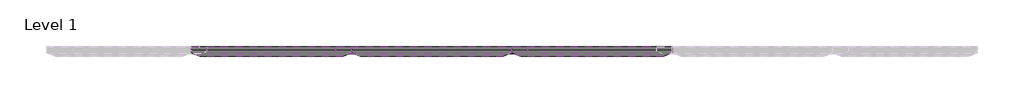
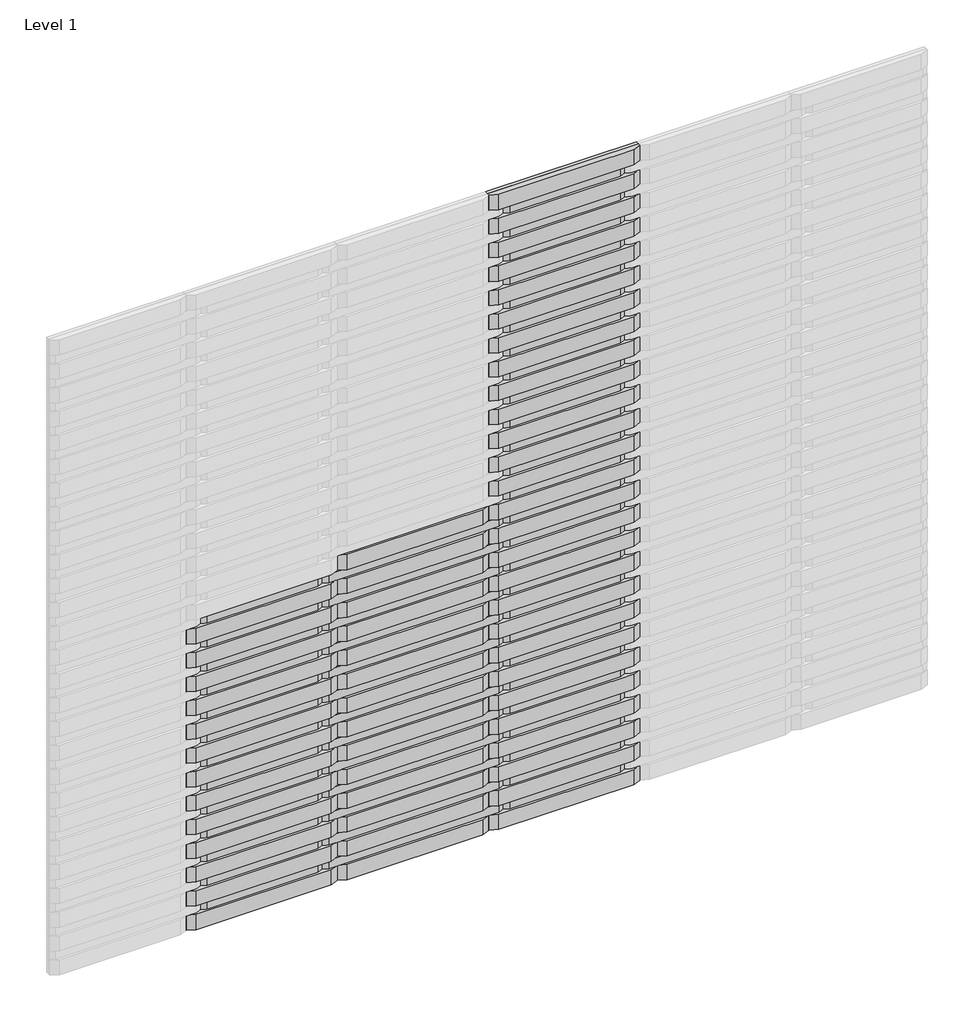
# One storey, part 2 of 3: 106 proxies.
"""IFC4 building model written with IfcOpenShell, lengths in millimetres."""

from ifc_helpers import new_model, si_unit, origin, place, context, project, spatial, transform, mapped, element, save
from components import specialty_equipment_40f1bc00, specialty_equipment_a95d78fa, specialty_equipment_5a5a9d1b

model = new_model("IFC4")

# Units and contexts
model_context = context("Model", 3, world=origin())
ifc_project = project(units=[si_unit("LENGTHUNIT", "METRE", prefix="MILLI")], contexts=[model_context])

# Site, building, storey
site = spatial("IfcSite", under=ifc_project)
building = spatial("IfcBuilding", under=site)
storey = spatial("IfcBuildingStorey", under=building, Name="Level 1", Elevation=0.0)

# Proxies
placement = place(None, origin())
specialty_equipment_shape = specialty_equipment_40f1bc00(model_context)
element("IfcBuildingElementProxy", 1, Name="Spinneybeck_ARO Plank 8 : A - 2’-9” x 3 1/2” x 1 1/4”", ObjectType="Spinneybeck_ARO Plank 8 : A - 2’-9” x 3 1/2” x 1 1/4”", at=placement, inside=storey, context=model_context, shape_type="MappedRepresentation", body=[
    mapped(specialty_equipment_shape, transform((2814.579612, 2593.3070483, 3755.55), x_axis=(1.0, 0.0, 0.0), y_axis=(0.0, 0.0, 1.0), z_axis=(0.0, -1.0, 0.0))),
])
element("IfcBuildingElementProxy", 2, Name="Spinneybeck_ARO Plank 8 : A - 2’-9” x 3 1/2” x 1 1/4”", ObjectType="Spinneybeck_ARO Plank 8 : A - 2’-9” x 3 1/2” x 1 1/4”", at=placement, inside=storey, context=model_context, shape_type="MappedRepresentation", body=[
    mapped(specialty_equipment_shape, transform((2814.579612, 2593.3070483, 3615.85), x_axis=(1.0, 0.0, 0.0), y_axis=(0.0, 0.0, 1.0), z_axis=(0.0, -1.0, 0.0))),
])
element("IfcBuildingElementProxy", 3, Name="Spinneybeck_ARO Plank 8 : A - 2’-9” x 3 1/2” x 1 1/4”", ObjectType="Spinneybeck_ARO Plank 8 : A - 2’-9” x 3 1/2” x 1 1/4”", at=placement, inside=storey, context=model_context, shape_type="MappedRepresentation", body=[
    mapped(specialty_equipment_shape, transform((2814.579612, 2593.3070483, 3476.15), x_axis=(1.0, 0.0, 0.0), y_axis=(0.0, 0.0, 1.0), z_axis=(0.0, -1.0, 0.0))),
])
element("IfcBuildingElementProxy", 4, Name="Spinneybeck_ARO Plank 8 : A - 2’-9” x 3 1/2” x 1 1/4”", ObjectType="Spinneybeck_ARO Plank 8 : A - 2’-9” x 3 1/2” x 1 1/4”", at=placement, inside=storey, context=model_context, shape_type="MappedRepresentation", body=[
    mapped(specialty_equipment_shape, transform((2814.579612, 2593.3070483, 3336.45), x_axis=(1.0, 0.0, 0.0), y_axis=(0.0, 0.0, 1.0), z_axis=(0.0, -1.0, 0.0))),
])
element("IfcBuildingElementProxy", 5, Name="Spinneybeck_ARO Plank 8 : A - 2’-9” x 3 1/2” x 1 1/4”", ObjectType="Spinneybeck_ARO Plank 8 : A - 2’-9” x 3 1/2” x 1 1/4”", at=placement, inside=storey, context=model_context, shape_type="MappedRepresentation", body=[
    mapped(specialty_equipment_shape, transform((2814.579612, 2593.3070483, 3196.75), x_axis=(1.0, 0.0, 0.0), y_axis=(0.0, 0.0, 1.0), z_axis=(0.0, -1.0, 0.0))),
])
element("IfcBuildingElementProxy", 6, Name="Spinneybeck_ARO Plank 8 : A - 2’-9” x 3 1/2” x 1 1/4”", ObjectType="Spinneybeck_ARO Plank 8 : A - 2’-9” x 3 1/2” x 1 1/4”", at=placement, inside=storey, context=model_context, shape_type="MappedRepresentation", body=[
    mapped(specialty_equipment_shape, transform((2814.579612, 2593.3070483, 3057.05), x_axis=(1.0, 0.0, 0.0), y_axis=(0.0, 0.0, 1.0), z_axis=(0.0, -1.0, 0.0))),
])
element("IfcBuildingElementProxy", 7, Name="Spinneybeck_ARO Plank 8 : A - 2’-9” x 3 1/2” x 1 1/4”", ObjectType="Spinneybeck_ARO Plank 8 : A - 2’-9” x 3 1/2” x 1 1/4”", at=placement, inside=storey, context=model_context, shape_type="MappedRepresentation", body=[
    mapped(specialty_equipment_shape, transform((2814.579612, 2593.3070483, 2917.35), x_axis=(1.0, 0.0, 0.0), y_axis=(0.0, 0.0, 1.0), z_axis=(0.0, -1.0, 0.0))),
])
element("IfcBuildingElementProxy", 8, Name="Spinneybeck_ARO Plank 8 : A - 2’-9” x 3 1/2” x 1 1/4”", ObjectType="Spinneybeck_ARO Plank 8 : A - 2’-9” x 3 1/2” x 1 1/4”", at=placement, inside=storey, context=model_context, shape_type="MappedRepresentation", body=[
    mapped(specialty_equipment_shape, transform((2814.579612, 2593.3070483, 2777.65), x_axis=(1.0, 0.0, 0.0), y_axis=(0.0, 0.0, 1.0), z_axis=(0.0, -1.0, 0.0))),
])
element("IfcBuildingElementProxy", 9, Name="Spinneybeck_ARO Plank 8 : A - 2’-9” x 3 1/2” x 1 1/4”", ObjectType="Spinneybeck_ARO Plank 8 : A - 2’-9” x 3 1/2” x 1 1/4”", at=placement, inside=storey, context=model_context, shape_type="MappedRepresentation", body=[
    mapped(specialty_equipment_shape, transform((2814.579612, 2593.3070483, 2637.95), x_axis=(1.0, 0.0, 0.0), y_axis=(0.0, 0.0, 1.0), z_axis=(0.0, -1.0, 0.0))),
])
element("IfcBuildingElementProxy", 10, Name="Spinneybeck_ARO Plank 8 : A - 2’-9” x 3 1/2” x 1 1/4”", ObjectType="Spinneybeck_ARO Plank 8 : A - 2’-9” x 3 1/2” x 1 1/4”", at=placement, inside=storey, context=model_context, shape_type="MappedRepresentation", body=[
    mapped(specialty_equipment_shape, transform((2814.579612, 2593.3070483, 2498.25), x_axis=(1.0, 0.0, 0.0), y_axis=(0.0, 0.0, 1.0), z_axis=(0.0, -1.0, 0.0))),
])
element("IfcBuildingElementProxy", 11, Name="Spinneybeck_ARO Plank 8 : A - 2’-9” x 3 1/2” x 1 1/4”", ObjectType="Spinneybeck_ARO Plank 8 : A - 2’-9” x 3 1/2” x 1 1/4”", at=placement, inside=storey, context=model_context, shape_type="MappedRepresentation", body=[
    mapped(specialty_equipment_shape, transform((2814.579612, 2593.3070483, 2358.55), x_axis=(1.0, 0.0, 0.0), y_axis=(0.0, 0.0, 1.0), z_axis=(0.0, -1.0, 0.0))),
])
element("IfcBuildingElementProxy", 12, Name="Spinneybeck_ARO Plank 8 : A - 2’-9” x 3 1/2” x 1 1/4”", ObjectType="Spinneybeck_ARO Plank 8 : A - 2’-9” x 3 1/2” x 1 1/4”", at=placement, inside=storey, context=model_context, shape_type="MappedRepresentation", body=[
    mapped(specialty_equipment_shape, transform((2814.579612, 2593.3070483, 2218.85), x_axis=(1.0, 0.0, 0.0), y_axis=(0.0, 0.0, 1.0), z_axis=(0.0, -1.0, 0.0))),
])
element("IfcBuildingElementProxy", 13, Name="Spinneybeck_ARO Plank 8 : A - 2’-9” x 3 1/2” x 1 1/4”", ObjectType="Spinneybeck_ARO Plank 8 : A - 2’-9” x 3 1/2” x 1 1/4”", at=placement, inside=storey, context=model_context, shape_type="MappedRepresentation", body=[
    mapped(specialty_equipment_shape, transform((2814.579612, 2593.3070483, 2079.15), x_axis=(1.0, 0.0, 0.0), y_axis=(0.0, 0.0, 1.0), z_axis=(0.0, -1.0, 0.0))),
])
element("IfcBuildingElementProxy", 14, Name="Spinneybeck_ARO Plank 8 : A - 2’-9” x 3 1/2” x 1 1/4”", ObjectType="Spinneybeck_ARO Plank 8 : A - 2’-9” x 3 1/2” x 1 1/4”", at=placement, inside=storey, context=model_context, shape_type="MappedRepresentation", body=[
    mapped(specialty_equipment_shape, transform((1976.379612, 2593.3070483, 1939.45), x_axis=(1.0, 0.0, 0.0), y_axis=(0.0, 0.0, 1.0), z_axis=(0.0, -1.0, 0.0))),
])
element("IfcBuildingElementProxy", 15, Name="Spinneybeck_ARO Plank 8 : A - 2’-9” x 3 1/2” x 1 1/4”", ObjectType="Spinneybeck_ARO Plank 8 : A - 2’-9” x 3 1/2” x 1 1/4”", at=placement, inside=storey, context=model_context, shape_type="MappedRepresentation", body=[
    mapped(specialty_equipment_shape, transform((2814.579612, 2593.3070483, 1939.45), x_axis=(1.0, 0.0, 0.0), y_axis=(0.0, 0.0, 1.0), z_axis=(0.0, -1.0, 0.0))),
])
element("IfcBuildingElementProxy", 16, Name="Spinneybeck_ARO Plank 8 : A - 2’-9” x 3 1/2” x 1 1/4”", ObjectType="Spinneybeck_ARO Plank 8 : A - 2’-9” x 3 1/2” x 1 1/4”", at=placement, inside=storey, context=model_context, shape_type="MappedRepresentation", body=[
    mapped(specialty_equipment_shape, transform((1138.179612, 2593.3070483, 1799.75), x_axis=(1.0, 0.0, 0.0), y_axis=(0.0, 0.0, 1.0), z_axis=(0.0, -1.0, 0.0))),
])
element("IfcBuildingElementProxy", 17, Name="Spinneybeck_ARO Plank 8 : A - 2’-9” x 3 1/2” x 1 1/4”", ObjectType="Spinneybeck_ARO Plank 8 : A - 2’-9” x 3 1/2” x 1 1/4”", at=placement, inside=storey, context=model_context, shape_type="MappedRepresentation", body=[
    mapped(specialty_equipment_shape, transform((1976.379612, 2593.3070483, 1799.75), x_axis=(1.0, 0.0, 0.0), y_axis=(0.0, 0.0, 1.0), z_axis=(0.0, -1.0, 0.0))),
])
element("IfcBuildingElementProxy", 18, Name="Spinneybeck_ARO Plank 8 : A - 2’-9” x 3 1/2” x 1 1/4”", ObjectType="Spinneybeck_ARO Plank 8 : A - 2’-9” x 3 1/2” x 1 1/4”", at=placement, inside=storey, context=model_context, shape_type="MappedRepresentation", body=[
    mapped(specialty_equipment_shape, transform((2814.579612, 2593.3070483, 1799.75), x_axis=(1.0, 0.0, 0.0), y_axis=(0.0, 0.0, 1.0), z_axis=(0.0, -1.0, 0.0))),
])
element("IfcBuildingElementProxy", 19, Name="Spinneybeck_ARO Plank 8 : A - 2’-9” x 3 1/2” x 1 1/4”", ObjectType="Spinneybeck_ARO Plank 8 : A - 2’-9” x 3 1/2” x 1 1/4”", at=placement, inside=storey, context=model_context, shape_type="MappedRepresentation", body=[
    mapped(specialty_equipment_shape, transform((1138.179612, 2593.3070483, 1660.05), x_axis=(1.0, 0.0, 0.0), y_axis=(0.0, 0.0, 1.0), z_axis=(0.0, -1.0, 0.0))),
])
element("IfcBuildingElementProxy", 20, Name="Spinneybeck_ARO Plank 8 : A - 2’-9” x 3 1/2” x 1 1/4”", ObjectType="Spinneybeck_ARO Plank 8 : A - 2’-9” x 3 1/2” x 1 1/4”", at=placement, inside=storey, context=model_context, shape_type="MappedRepresentation", body=[
    mapped(specialty_equipment_shape, transform((1976.379612, 2593.3070483, 1660.05), x_axis=(1.0, 0.0, 0.0), y_axis=(0.0, 0.0, 1.0), z_axis=(0.0, -1.0, 0.0))),
])
element("IfcBuildingElementProxy", 21, Name="Spinneybeck_ARO Plank 8 : A - 2’-9” x 3 1/2” x 1 1/4”", ObjectType="Spinneybeck_ARO Plank 8 : A - 2’-9” x 3 1/2” x 1 1/4”", at=placement, inside=storey, context=model_context, shape_type="MappedRepresentation", body=[
    mapped(specialty_equipment_shape, transform((2814.579612, 2593.3070483, 1660.05), x_axis=(1.0, 0.0, 0.0), y_axis=(0.0, 0.0, 1.0), z_axis=(0.0, -1.0, 0.0))),
])
element("IfcBuildingElementProxy", 22, Name="Spinneybeck_ARO Plank 8 : A - 2’-9” x 3 1/2” x 1 1/4”", ObjectType="Spinneybeck_ARO Plank 8 : A - 2’-9” x 3 1/2” x 1 1/4”", at=placement, inside=storey, context=model_context, shape_type="MappedRepresentation", body=[
    mapped(specialty_equipment_shape, transform((1138.179612, 2593.3070483, 1520.35), x_axis=(1.0, 0.0, 0.0), y_axis=(0.0, 0.0, 1.0), z_axis=(0.0, -1.0, 0.0))),
])
element("IfcBuildingElementProxy", 23, Name="Spinneybeck_ARO Plank 8 : A - 2’-9” x 3 1/2” x 1 1/4”", ObjectType="Spinneybeck_ARO Plank 8 : A - 2’-9” x 3 1/2” x 1 1/4”", at=placement, inside=storey, context=model_context, shape_type="MappedRepresentation", body=[
    mapped(specialty_equipment_shape, transform((1976.379612, 2593.3070483, 1520.35), x_axis=(1.0, 0.0, 0.0), y_axis=(0.0, 0.0, 1.0), z_axis=(0.0, -1.0, 0.0))),
])
element("IfcBuildingElementProxy", 24, Name="Spinneybeck_ARO Plank 8 : A - 2’-9” x 3 1/2” x 1 1/4”", ObjectType="Spinneybeck_ARO Plank 8 : A - 2’-9” x 3 1/2” x 1 1/4”", at=placement, inside=storey, context=model_context, shape_type="MappedRepresentation", body=[
    mapped(specialty_equipment_shape, transform((2814.579612, 2593.3070483, 1520.35), x_axis=(1.0, 0.0, 0.0), y_axis=(0.0, 0.0, 1.0), z_axis=(0.0, -1.0, 0.0))),
])
element("IfcBuildingElementProxy", 25, Name="Spinneybeck_ARO Plank 8 : A - 2’-9” x 3 1/2” x 1 1/4”", ObjectType="Spinneybeck_ARO Plank 8 : A - 2’-9” x 3 1/2” x 1 1/4”", at=placement, inside=storey, context=model_context, shape_type="MappedRepresentation", body=[
    mapped(specialty_equipment_shape, transform((1138.179612, 2593.3070483, 1380.65), x_axis=(1.0, 0.0, 0.0), y_axis=(0.0, 0.0, 1.0), z_axis=(0.0, -1.0, 0.0))),
])
element("IfcBuildingElementProxy", 26, Name="Spinneybeck_ARO Plank 8 : A - 2’-9” x 3 1/2” x 1 1/4”", ObjectType="Spinneybeck_ARO Plank 8 : A - 2’-9” x 3 1/2” x 1 1/4”", at=placement, inside=storey, context=model_context, shape_type="MappedRepresentation", body=[
    mapped(specialty_equipment_shape, transform((1976.379612, 2593.3070483, 1380.65), x_axis=(1.0, 0.0, 0.0), y_axis=(0.0, 0.0, 1.0), z_axis=(0.0, -1.0, 0.0))),
])
element("IfcBuildingElementProxy", 27, Name="Spinneybeck_ARO Plank 8 : A - 2’-9” x 3 1/2” x 1 1/4”", ObjectType="Spinneybeck_ARO Plank 8 : A - 2’-9” x 3 1/2” x 1 1/4”", at=placement, inside=storey, context=model_context, shape_type="MappedRepresentation", body=[
    mapped(specialty_equipment_shape, transform((2814.579612, 2593.3070483, 1380.65), x_axis=(1.0, 0.0, 0.0), y_axis=(0.0, 0.0, 1.0), z_axis=(0.0, -1.0, 0.0))),
])
element("IfcBuildingElementProxy", 28, Name="Spinneybeck_ARO Plank 8 : A - 2’-9” x 3 1/2” x 1 1/4”", ObjectType="Spinneybeck_ARO Plank 8 : A - 2’-9” x 3 1/2” x 1 1/4”", at=placement, inside=storey, context=model_context, shape_type="MappedRepresentation", body=[
    mapped(specialty_equipment_shape, transform((1138.179612, 2593.3070483, 1240.95), x_axis=(1.0, 0.0, 0.0), y_axis=(0.0, 0.0, 1.0), z_axis=(0.0, -1.0, 0.0))),
])
element("IfcBuildingElementProxy", 29, Name="Spinneybeck_ARO Plank 8 : A - 2’-9” x 3 1/2” x 1 1/4”", ObjectType="Spinneybeck_ARO Plank 8 : A - 2’-9” x 3 1/2” x 1 1/4”", at=placement, inside=storey, context=model_context, shape_type="MappedRepresentation", body=[
    mapped(specialty_equipment_shape, transform((1976.379612, 2593.3070483, 1240.95), x_axis=(1.0, 0.0, 0.0), y_axis=(0.0, 0.0, 1.0), z_axis=(0.0, -1.0, 0.0))),
])
element("IfcBuildingElementProxy", 30, Name="Spinneybeck_ARO Plank 8 : A - 2’-9” x 3 1/2” x 1 1/4”", ObjectType="Spinneybeck_ARO Plank 8 : A - 2’-9” x 3 1/2” x 1 1/4”", at=placement, inside=storey, context=model_context, shape_type="MappedRepresentation", body=[
    mapped(specialty_equipment_shape, transform((2814.579612, 2593.3070483, 1240.95), x_axis=(1.0, 0.0, 0.0), y_axis=(0.0, 0.0, 1.0), z_axis=(0.0, -1.0, 0.0))),
])
element("IfcBuildingElementProxy", 31, Name="Spinneybeck_ARO Plank 8 : A - 2’-9” x 3 1/2” x 1 1/4”", ObjectType="Spinneybeck_ARO Plank 8 : A - 2’-9” x 3 1/2” x 1 1/4”", at=placement, inside=storey, context=model_context, shape_type="MappedRepresentation", body=[
    mapped(specialty_equipment_shape, transform((1138.179612, 2593.3070483, 1101.25), x_axis=(1.0, 0.0, 0.0), y_axis=(0.0, 0.0, 1.0), z_axis=(0.0, -1.0, 0.0))),
])
element("IfcBuildingElementProxy", 32, Name="Spinneybeck_ARO Plank 8 : A - 2’-9” x 3 1/2” x 1 1/4”", ObjectType="Spinneybeck_ARO Plank 8 : A - 2’-9” x 3 1/2” x 1 1/4”", at=placement, inside=storey, context=model_context, shape_type="MappedRepresentation", body=[
    mapped(specialty_equipment_shape, transform((1976.379612, 2593.3070483, 1101.25), x_axis=(1.0, 0.0, 0.0), y_axis=(0.0, 0.0, 1.0), z_axis=(0.0, -1.0, 0.0))),
])
element("IfcBuildingElementProxy", 33, Name="Spinneybeck_ARO Plank 8 : A - 2’-9” x 3 1/2” x 1 1/4”", ObjectType="Spinneybeck_ARO Plank 8 : A - 2’-9” x 3 1/2” x 1 1/4”", at=placement, inside=storey, context=model_context, shape_type="MappedRepresentation", body=[
    mapped(specialty_equipment_shape, transform((2814.579612, 2593.3070483, 1101.25), x_axis=(1.0, 0.0, 0.0), y_axis=(0.0, 0.0, 1.0), z_axis=(0.0, -1.0, 0.0))),
])
element("IfcBuildingElementProxy", 34, Name="Spinneybeck_ARO Plank 8 : A - 2’-9” x 3 1/2” x 1 1/4”", ObjectType="Spinneybeck_ARO Plank 8 : A - 2’-9” x 3 1/2” x 1 1/4”", at=placement, inside=storey, context=model_context, shape_type="MappedRepresentation", body=[
    mapped(specialty_equipment_shape, transform((1138.179612, 2593.3070483, 961.55), x_axis=(1.0, 0.0, 0.0), y_axis=(0.0, 0.0, 1.0), z_axis=(0.0, -1.0, 0.0))),
])
element("IfcBuildingElementProxy", 35, Name="Spinneybeck_ARO Plank 8 : A - 2’-9” x 3 1/2” x 1 1/4”", ObjectType="Spinneybeck_ARO Plank 8 : A - 2’-9” x 3 1/2” x 1 1/4”", at=placement, inside=storey, context=model_context, shape_type="MappedRepresentation", body=[
    mapped(specialty_equipment_shape, transform((1976.379612, 2593.3070483, 961.55), x_axis=(1.0, 0.0, 0.0), y_axis=(0.0, 0.0, 1.0), z_axis=(0.0, -1.0, 0.0))),
])
element("IfcBuildingElementProxy", 36, Name="Spinneybeck_ARO Plank 8 : A - 2’-9” x 3 1/2” x 1 1/4”", ObjectType="Spinneybeck_ARO Plank 8 : A - 2’-9” x 3 1/2” x 1 1/4”", at=placement, inside=storey, context=model_context, shape_type="MappedRepresentation", body=[
    mapped(specialty_equipment_shape, transform((2814.579612, 2593.3070483, 961.55), x_axis=(1.0, 0.0, 0.0), y_axis=(0.0, 0.0, 1.0), z_axis=(0.0, -1.0, 0.0))),
])
element("IfcBuildingElementProxy", 37, Name="Spinneybeck_ARO Plank 8 : A - 2’-9” x 3 1/2” x 1 1/4”", ObjectType="Spinneybeck_ARO Plank 8 : A - 2’-9” x 3 1/2” x 1 1/4”", at=placement, inside=storey, context=model_context, shape_type="MappedRepresentation", body=[
    mapped(specialty_equipment_shape, transform((1138.179612, 2593.3070483, 821.85), x_axis=(1.0, 0.0, 0.0), y_axis=(0.0, 0.0, 1.0), z_axis=(0.0, -1.0, 0.0))),
])
element("IfcBuildingElementProxy", 38, Name="Spinneybeck_ARO Plank 8 : A - 2’-9” x 3 1/2” x 1 1/4”", ObjectType="Spinneybeck_ARO Plank 8 : A - 2’-9” x 3 1/2” x 1 1/4”", at=placement, inside=storey, context=model_context, shape_type="MappedRepresentation", body=[
    mapped(specialty_equipment_shape, transform((1976.379612, 2593.3070483, 821.85), x_axis=(1.0, 0.0, 0.0), y_axis=(0.0, 0.0, 1.0), z_axis=(0.0, -1.0, 0.0))),
])
element("IfcBuildingElementProxy", 39, Name="Spinneybeck_ARO Plank 8 : A - 2’-9” x 3 1/2” x 1 1/4”", ObjectType="Spinneybeck_ARO Plank 8 : A - 2’-9” x 3 1/2” x 1 1/4”", at=placement, inside=storey, context=model_context, shape_type="MappedRepresentation", body=[
    mapped(specialty_equipment_shape, transform((2814.579612, 2593.3070483, 821.85), x_axis=(1.0, 0.0, 0.0), y_axis=(0.0, 0.0, 1.0), z_axis=(0.0, -1.0, 0.0))),
])
element("IfcBuildingElementProxy", 40, Name="Spinneybeck_ARO Plank 8 : A - 2’-9” x 3 1/2” x 1 1/4”", ObjectType="Spinneybeck_ARO Plank 8 : A - 2’-9” x 3 1/2” x 1 1/4”", at=placement, inside=storey, context=model_context, shape_type="MappedRepresentation", body=[
    mapped(specialty_equipment_shape, transform((1138.179612, 2593.3070483, 682.15), x_axis=(1.0, 0.0, 0.0), y_axis=(0.0, 0.0, 1.0), z_axis=(0.0, -1.0, 0.0))),
])
element("IfcBuildingElementProxy", 41, Name="Spinneybeck_ARO Plank 8 : A - 2’-9” x 3 1/2” x 1 1/4”", ObjectType="Spinneybeck_ARO Plank 8 : A - 2’-9” x 3 1/2” x 1 1/4”", at=placement, inside=storey, context=model_context, shape_type="MappedRepresentation", body=[
    mapped(specialty_equipment_shape, transform((1976.379612, 2593.3070483, 682.15), x_axis=(1.0, 0.0, 0.0), y_axis=(0.0, 0.0, 1.0), z_axis=(0.0, -1.0, 0.0))),
])
element("IfcBuildingElementProxy", 42, Name="Spinneybeck_ARO Plank 8 : A - 2’-9” x 3 1/2” x 1 1/4”", ObjectType="Spinneybeck_ARO Plank 8 : A - 2’-9” x 3 1/2” x 1 1/4”", at=placement, inside=storey, context=model_context, shape_type="MappedRepresentation", body=[
    mapped(specialty_equipment_shape, transform((2814.579612, 2593.3070483, 682.15), x_axis=(1.0, 0.0, 0.0), y_axis=(0.0, 0.0, 1.0), z_axis=(0.0, -1.0, 0.0))),
])
element("IfcBuildingElementProxy", 43, Name="Spinneybeck_ARO Plank 8 : A - 2’-9” x 3 1/2” x 1 1/4”", ObjectType="Spinneybeck_ARO Plank 8 : A - 2’-9” x 3 1/2” x 1 1/4”", at=placement, inside=storey, context=model_context, shape_type="MappedRepresentation", body=[
    mapped(specialty_equipment_shape, transform((1138.179612, 2593.3070483, 542.45), x_axis=(1.0, 0.0, 0.0), y_axis=(0.0, 0.0, 1.0), z_axis=(0.0, -1.0, 0.0))),
])
element("IfcBuildingElementProxy", 44, Name="Spinneybeck_ARO Plank 8 : A - 2’-9” x 3 1/2” x 1 1/4”", ObjectType="Spinneybeck_ARO Plank 8 : A - 2’-9” x 3 1/2” x 1 1/4”", at=placement, inside=storey, context=model_context, shape_type="MappedRepresentation", body=[
    mapped(specialty_equipment_shape, transform((1976.379612, 2593.3070483, 542.45), x_axis=(1.0, 0.0, 0.0), y_axis=(0.0, 0.0, 1.0), z_axis=(0.0, -1.0, 0.0))),
])
element("IfcBuildingElementProxy", 45, Name="Spinneybeck_ARO Plank 8 : A - 2’-9” x 3 1/2” x 1 1/4”", ObjectType="Spinneybeck_ARO Plank 8 : A - 2’-9” x 3 1/2” x 1 1/4”", at=placement, inside=storey, context=model_context, shape_type="MappedRepresentation", body=[
    mapped(specialty_equipment_shape, transform((2814.579612, 2593.3070483, 542.45), x_axis=(1.0, 0.0, 0.0), y_axis=(0.0, 0.0, 1.0), z_axis=(0.0, -1.0, 0.0))),
])
element("IfcBuildingElementProxy", 46, Name="Spinneybeck_ARO Plank 8 : A - 2’-9” x 3 1/2” x 1 1/4”", ObjectType="Spinneybeck_ARO Plank 8 : A - 2’-9” x 3 1/2” x 1 1/4”", at=placement, inside=storey, context=model_context, shape_type="MappedRepresentation", body=[
    mapped(specialty_equipment_shape, transform((1138.179612, 2593.3070483, 402.75), x_axis=(1.0, 0.0, 0.0), y_axis=(0.0, 0.0, 1.0), z_axis=(0.0, -1.0, 0.0))),
])
element("IfcBuildingElementProxy", 47, Name="Spinneybeck_ARO Plank 8 : A - 2’-9” x 3 1/2” x 1 1/4”", ObjectType="Spinneybeck_ARO Plank 8 : A - 2’-9” x 3 1/2” x 1 1/4”", at=placement, inside=storey, context=model_context, shape_type="MappedRepresentation", body=[
    mapped(specialty_equipment_shape, transform((1976.379612, 2593.3070483, 402.75), x_axis=(1.0, 0.0, 0.0), y_axis=(0.0, 0.0, 1.0), z_axis=(0.0, -1.0, 0.0))),
])
element("IfcBuildingElementProxy", 48, Name="Spinneybeck_ARO Plank 8 : A - 2’-9” x 3 1/2” x 1 1/4”", ObjectType="Spinneybeck_ARO Plank 8 : A - 2’-9” x 3 1/2” x 1 1/4”", at=placement, inside=storey, context=model_context, shape_type="MappedRepresentation", body=[
    mapped(specialty_equipment_shape, transform((2814.579612, 2593.3070483, 402.75), x_axis=(1.0, 0.0, 0.0), y_axis=(0.0, 0.0, 1.0), z_axis=(0.0, -1.0, 0.0))),
])
element("IfcBuildingElementProxy", 49, Name="Spinneybeck_ARO Plank 8 : A - 2’-9” x 3 1/2” x 1 1/4”", ObjectType="Spinneybeck_ARO Plank 8 : A - 2’-9” x 3 1/2” x 1 1/4”", at=placement, inside=storey, context=model_context, shape_type="MappedRepresentation", body=[
    mapped(specialty_equipment_shape, transform((1138.179612, 2593.3070483, 263.05), x_axis=(1.0, 0.0, 0.0), y_axis=(0.0, 0.0, 1.0), z_axis=(0.0, -1.0, 0.0))),
])
element("IfcBuildingElementProxy", 50, Name="Spinneybeck_ARO Plank 8 : A - 2’-9” x 3 1/2” x 1 1/4”", ObjectType="Spinneybeck_ARO Plank 8 : A - 2’-9” x 3 1/2” x 1 1/4”", at=placement, inside=storey, context=model_context, shape_type="MappedRepresentation", body=[
    mapped(specialty_equipment_shape, transform((1976.379612, 2593.3070483, 263.05), x_axis=(1.0, 0.0, 0.0), y_axis=(0.0, 0.0, 1.0), z_axis=(0.0, -1.0, 0.0))),
])
element("IfcBuildingElementProxy", 51, Name="Spinneybeck_ARO Plank 8 : A - 2’-9” x 3 1/2” x 1 1/4”", ObjectType="Spinneybeck_ARO Plank 8 : A - 2’-9” x 3 1/2” x 1 1/4”", at=placement, inside=storey, context=model_context, shape_type="MappedRepresentation", body=[
    mapped(specialty_equipment_shape, transform((2814.579612, 2593.3070483, 263.05), x_axis=(1.0, 0.0, 0.0), y_axis=(0.0, 0.0, 1.0), z_axis=(0.0, -1.0, 0.0))),
])
element("IfcBuildingElementProxy", 52, Name="Spinneybeck_ARO Plank 8 : A - 2’-9” x 3 1/2” x 1 1/4”", ObjectType="Spinneybeck_ARO Plank 8 : A - 2’-9” x 3 1/2” x 1 1/4”", at=placement, inside=storey, context=model_context, shape_type="MappedRepresentation", body=[
    mapped(specialty_equipment_shape, transform((1138.179612, 2593.3070483, 123.35), x_axis=(1.0, 0.0, 0.0), y_axis=(0.0, 0.0, 1.0), z_axis=(0.0, -1.0, 0.0))),
])
element("IfcBuildingElementProxy", 53, Name="Spinneybeck_ARO Plank 8 : A - 2’-9” x 3 1/2” x 1 1/4”", ObjectType="Spinneybeck_ARO Plank 8 : A - 2’-9” x 3 1/2” x 1 1/4”", at=placement, inside=storey, context=model_context, shape_type="MappedRepresentation", body=[
    mapped(specialty_equipment_shape, transform((1976.379612, 2593.3070483, 123.35), x_axis=(1.0, 0.0, 0.0), y_axis=(0.0, 0.0, 1.0), z_axis=(0.0, -1.0, 0.0))),
])
element("IfcBuildingElementProxy", 54, Name="Spinneybeck_ARO Plank 8 : A - 2’-9” x 3 1/2” x 1 1/4”", ObjectType="Spinneybeck_ARO Plank 8 : A - 2’-9” x 3 1/2” x 1 1/4”", at=placement, inside=storey, context=model_context, shape_type="MappedRepresentation", body=[
    mapped(specialty_equipment_shape, transform((2814.579612, 2593.3070483, 123.35), x_axis=(1.0, 0.0, 0.0), y_axis=(0.0, 0.0, 1.0), z_axis=(0.0, -1.0, 0.0))),
])
specialty_equipment_2_shape = specialty_equipment_a95d78fa(model_context)
element("IfcBuildingElementProxy", 55, Name="Spinneybeck_ARO Plank 8 : C - 3’-3 1/2” x 2” x 3/4”", ObjectType="Spinneybeck_ARO Plank 8 : C - 3’-3 1/2” x 2” x 3/4”", at=placement, inside=storey, context=model_context, shape_type="MappedRepresentation", body=[
    mapped(specialty_equipment_2_shape, transform((1976.379612, 2593.3070483, 1869.6), x_axis=(1.0, 0.0, 0.0), y_axis=(0.0, 0.0, 1.0), z_axis=(0.0, -1.0, 0.0))),
])
element("IfcBuildingElementProxy", 56, Name="Spinneybeck_ARO Plank 8 : C - 3’-3 1/2” x 2” x 3/4”", ObjectType="Spinneybeck_ARO Plank 8 : C - 3’-3 1/2” x 2” x 3/4”", at=placement, inside=storey, context=model_context, shape_type="MappedRepresentation", body=[
    mapped(specialty_equipment_2_shape, transform((1976.379612, 2593.3070483, 1729.9), x_axis=(1.0, 0.0, 0.0), y_axis=(0.0, 0.0, 1.0), z_axis=(0.0, -1.0, 0.0))),
])
element("IfcBuildingElementProxy", 57, Name="Spinneybeck_ARO Plank 8 : C - 3’-3 1/2” x 2” x 3/4”", ObjectType="Spinneybeck_ARO Plank 8 : C - 3’-3 1/2” x 2” x 3/4”", at=placement, inside=storey, context=model_context, shape_type="MappedRepresentation", body=[
    mapped(specialty_equipment_2_shape, transform((1976.379612, 2593.3070483, 1590.2), x_axis=(1.0, 0.0, 0.0), y_axis=(0.0, 0.0, 1.0), z_axis=(0.0, -1.0, 0.0))),
])
element("IfcBuildingElementProxy", 58, Name="Spinneybeck_ARO Plank 8 : C - 3’-3 1/2” x 2” x 3/4”", ObjectType="Spinneybeck_ARO Plank 8 : C - 3’-3 1/2” x 2” x 3/4”", at=placement, inside=storey, context=model_context, shape_type="MappedRepresentation", body=[
    mapped(specialty_equipment_2_shape, transform((1976.379612, 2593.3070483, 1450.5), x_axis=(1.0, 0.0, 0.0), y_axis=(0.0, 0.0, 1.0), z_axis=(0.0, -1.0, 0.0))),
])
element("IfcBuildingElementProxy", 59, Name="Spinneybeck_ARO Plank 8 : C - 3’-3 1/2” x 2” x 3/4”", ObjectType="Spinneybeck_ARO Plank 8 : C - 3’-3 1/2” x 2” x 3/4”", at=placement, inside=storey, context=model_context, shape_type="MappedRepresentation", body=[
    mapped(specialty_equipment_2_shape, transform((1976.379612, 2593.3070483, 1310.8), x_axis=(1.0, 0.0, 0.0), y_axis=(0.0, 0.0, 1.0), z_axis=(0.0, -1.0, 0.0))),
])
element("IfcBuildingElementProxy", 60, Name="Spinneybeck_ARO Plank 8 : C - 3’-3 1/2” x 2” x 3/4”", ObjectType="Spinneybeck_ARO Plank 8 : C - 3’-3 1/2” x 2” x 3/4”", at=placement, inside=storey, context=model_context, shape_type="MappedRepresentation", body=[
    mapped(specialty_equipment_2_shape, transform((1976.379612, 2593.3070483, 1171.1), x_axis=(1.0, 0.0, 0.0), y_axis=(0.0, 0.0, 1.0), z_axis=(0.0, -1.0, 0.0))),
])
element("IfcBuildingElementProxy", 61, Name="Spinneybeck_ARO Plank 8 : C - 3’-3 1/2” x 2” x 3/4”", ObjectType="Spinneybeck_ARO Plank 8 : C - 3’-3 1/2” x 2” x 3/4”", at=placement, inside=storey, context=model_context, shape_type="MappedRepresentation", body=[
    mapped(specialty_equipment_2_shape, transform((1976.379612, 2593.3070483, 1031.4), x_axis=(1.0, 0.0, 0.0), y_axis=(0.0, 0.0, 1.0), z_axis=(0.0, -1.0, 0.0))),
])
element("IfcBuildingElementProxy", 62, Name="Spinneybeck_ARO Plank 8 : C - 3’-3 1/2” x 2” x 3/4”", ObjectType="Spinneybeck_ARO Plank 8 : C - 3’-3 1/2” x 2” x 3/4”", at=placement, inside=storey, context=model_context, shape_type="MappedRepresentation", body=[
    mapped(specialty_equipment_2_shape, transform((1976.379612, 2593.3070483, 891.7), x_axis=(1.0, 0.0, 0.0), y_axis=(0.0, 0.0, 1.0), z_axis=(0.0, -1.0, 0.0))),
])
element("IfcBuildingElementProxy", 63, Name="Spinneybeck_ARO Plank 8 : C - 3’-3 1/2” x 2” x 3/4”", ObjectType="Spinneybeck_ARO Plank 8 : C - 3’-3 1/2” x 2” x 3/4”", at=placement, inside=storey, context=model_context, shape_type="MappedRepresentation", body=[
    mapped(specialty_equipment_2_shape, transform((1976.379612, 2593.3070483, 752.0), x_axis=(1.0, 0.0, 0.0), y_axis=(0.0, 0.0, 1.0), z_axis=(0.0, -1.0, 0.0))),
])
element("IfcBuildingElementProxy", 64, Name="Spinneybeck_ARO Plank 8 : C - 3’-3 1/2” x 2” x 3/4”", ObjectType="Spinneybeck_ARO Plank 8 : C - 3’-3 1/2” x 2” x 3/4”", at=placement, inside=storey, context=model_context, shape_type="MappedRepresentation", body=[
    mapped(specialty_equipment_2_shape, transform((1976.379612, 2593.3070483, 612.3), x_axis=(1.0, 0.0, 0.0), y_axis=(0.0, 0.0, 1.0), z_axis=(0.0, -1.0, 0.0))),
])
element("IfcBuildingElementProxy", 65, Name="Spinneybeck_ARO Plank 8 : C - 3’-3 1/2” x 2” x 3/4”", ObjectType="Spinneybeck_ARO Plank 8 : C - 3’-3 1/2” x 2” x 3/4”", at=placement, inside=storey, context=model_context, shape_type="MappedRepresentation", body=[
    mapped(specialty_equipment_2_shape, transform((1976.379612, 2593.3070483, 472.6), x_axis=(1.0, 0.0, 0.0), y_axis=(0.0, 0.0, 1.0), z_axis=(0.0, -1.0, 0.0))),
])
element("IfcBuildingElementProxy", 66, Name="Spinneybeck_ARO Plank 8 : C - 3’-3 1/2” x 2” x 3/4”", ObjectType="Spinneybeck_ARO Plank 8 : C - 3’-3 1/2” x 2” x 3/4”", at=placement, inside=storey, context=model_context, shape_type="MappedRepresentation", body=[
    mapped(specialty_equipment_2_shape, transform((1976.379612, 2593.3070483, 332.9), x_axis=(1.0, 0.0, 0.0), y_axis=(0.0, 0.0, 1.0), z_axis=(0.0, -1.0, 0.0))),
])
element("IfcBuildingElementProxy", 67, Name="Spinneybeck_ARO Plank 8 : C - 3’-3 1/2” x 2” x 3/4”", ObjectType="Spinneybeck_ARO Plank 8 : C - 3’-3 1/2” x 2” x 3/4”", at=placement, inside=storey, context=model_context, shape_type="MappedRepresentation", body=[
    mapped(specialty_equipment_2_shape, transform((1976.379612, 2593.3070483, 193.2), x_axis=(1.0, 0.0, 0.0), y_axis=(0.0, 0.0, 1.0), z_axis=(0.0, -1.0, 0.0))),
])
specialty_equipment_3_shape = specialty_equipment_5a5a9d1b(model_context)
element("IfcBuildingElementProxy", 68, Name="Spinneybeck_ARO Plank 8 : D - 2’-2 1/2” x 2” x 3/4”", ObjectType="Spinneybeck_ARO Plank 8 : D - 2’-2 1/2” x 2” x 3/4”", at=placement, inside=storey, context=model_context, shape_type="MappedRepresentation", body=[
    mapped(specialty_equipment_3_shape, transform((2814.579612, 2593.3070483, 3685.7), x_axis=(1.0, 0.0, 0.0), y_axis=(0.0, 0.0, 1.0), z_axis=(0.0, -1.0, 0.0))),
])
element("IfcBuildingElementProxy", 69, Name="Spinneybeck_ARO Plank 8 : D - 2’-2 1/2” x 2” x 3/4”", ObjectType="Spinneybeck_ARO Plank 8 : D - 2’-2 1/2” x 2” x 3/4”", at=placement, inside=storey, context=model_context, shape_type="MappedRepresentation", body=[
    mapped(specialty_equipment_3_shape, transform((2814.579612, 2593.3070483, 3546.0), x_axis=(1.0, 0.0, 0.0), y_axis=(0.0, 0.0, 1.0), z_axis=(0.0, -1.0, 0.0))),
])
element("IfcBuildingElementProxy", 70, Name="Spinneybeck_ARO Plank 8 : D - 2’-2 1/2” x 2” x 3/4”", ObjectType="Spinneybeck_ARO Plank 8 : D - 2’-2 1/2” x 2” x 3/4”", at=placement, inside=storey, context=model_context, shape_type="MappedRepresentation", body=[
    mapped(specialty_equipment_3_shape, transform((2814.579612, 2593.3070483, 3406.3), x_axis=(1.0, 0.0, 0.0), y_axis=(0.0, 0.0, 1.0), z_axis=(0.0, -1.0, 0.0))),
])
element("IfcBuildingElementProxy", 71, Name="Spinneybeck_ARO Plank 8 : D - 2’-2 1/2” x 2” x 3/4”", ObjectType="Spinneybeck_ARO Plank 8 : D - 2’-2 1/2” x 2” x 3/4”", at=placement, inside=storey, context=model_context, shape_type="MappedRepresentation", body=[
    mapped(specialty_equipment_3_shape, transform((2814.579612, 2593.3070483, 3266.6), x_axis=(1.0, 0.0, 0.0), y_axis=(0.0, 0.0, 1.0), z_axis=(0.0, -1.0, 0.0))),
])
element("IfcBuildingElementProxy", 72, Name="Spinneybeck_ARO Plank 8 : D - 2’-2 1/2” x 2” x 3/4”", ObjectType="Spinneybeck_ARO Plank 8 : D - 2’-2 1/2” x 2” x 3/4”", at=placement, inside=storey, context=model_context, shape_type="MappedRepresentation", body=[
    mapped(specialty_equipment_3_shape, transform((2814.579612, 2593.3070483, 3126.9), x_axis=(1.0, 0.0, 0.0), y_axis=(0.0, 0.0, 1.0), z_axis=(0.0, -1.0, 0.0))),
])
element("IfcBuildingElementProxy", 73, Name="Spinneybeck_ARO Plank 8 : D - 2’-2 1/2” x 2” x 3/4”", ObjectType="Spinneybeck_ARO Plank 8 : D - 2’-2 1/2” x 2” x 3/4”", at=placement, inside=storey, context=model_context, shape_type="MappedRepresentation", body=[
    mapped(specialty_equipment_3_shape, transform((2814.579612, 2593.3070483, 2987.2), x_axis=(1.0, 0.0, 0.0), y_axis=(0.0, 0.0, 1.0), z_axis=(0.0, -1.0, 0.0))),
])
element("IfcBuildingElementProxy", 74, Name="Spinneybeck_ARO Plank 8 : D - 2’-2 1/2” x 2” x 3/4”", ObjectType="Spinneybeck_ARO Plank 8 : D - 2’-2 1/2” x 2” x 3/4”", at=placement, inside=storey, context=model_context, shape_type="MappedRepresentation", body=[
    mapped(specialty_equipment_3_shape, transform((2814.579612, 2593.3070483, 2847.5), x_axis=(1.0, 0.0, 0.0), y_axis=(0.0, 0.0, 1.0), z_axis=(0.0, -1.0, 0.0))),
])
element("IfcBuildingElementProxy", 75, Name="Spinneybeck_ARO Plank 8 : D - 2’-2 1/2” x 2” x 3/4”", ObjectType="Spinneybeck_ARO Plank 8 : D - 2’-2 1/2” x 2” x 3/4”", at=placement, inside=storey, context=model_context, shape_type="MappedRepresentation", body=[
    mapped(specialty_equipment_3_shape, transform((2814.579612, 2593.3070483, 2707.8), x_axis=(1.0, 0.0, 0.0), y_axis=(0.0, 0.0, 1.0), z_axis=(0.0, -1.0, 0.0))),
])
element("IfcBuildingElementProxy", 76, Name="Spinneybeck_ARO Plank 8 : D - 2’-2 1/2” x 2” x 3/4”", ObjectType="Spinneybeck_ARO Plank 8 : D - 2’-2 1/2” x 2” x 3/4”", at=placement, inside=storey, context=model_context, shape_type="MappedRepresentation", body=[
    mapped(specialty_equipment_3_shape, transform((2814.579612, 2593.3070483, 2568.1), x_axis=(1.0, 0.0, 0.0), y_axis=(0.0, 0.0, 1.0), z_axis=(0.0, -1.0, 0.0))),
])
element("IfcBuildingElementProxy", 77, Name="Spinneybeck_ARO Plank 8 : D - 2’-2 1/2” x 2” x 3/4”", ObjectType="Spinneybeck_ARO Plank 8 : D - 2’-2 1/2” x 2” x 3/4”", at=placement, inside=storey, context=model_context, shape_type="MappedRepresentation", body=[
    mapped(specialty_equipment_3_shape, transform((2814.579612, 2593.3070483, 2428.4), x_axis=(1.0, 0.0, 0.0), y_axis=(0.0, 0.0, 1.0), z_axis=(0.0, -1.0, 0.0))),
])
element("IfcBuildingElementProxy", 78, Name="Spinneybeck_ARO Plank 8 : D - 2’-2 1/2” x 2” x 3/4”", ObjectType="Spinneybeck_ARO Plank 8 : D - 2’-2 1/2” x 2” x 3/4”", at=placement, inside=storey, context=model_context, shape_type="MappedRepresentation", body=[
    mapped(specialty_equipment_3_shape, transform((2814.579612, 2593.3070483, 2288.7), x_axis=(1.0, 0.0, 0.0), y_axis=(0.0, 0.0, 1.0), z_axis=(0.0, -1.0, 0.0))),
])
element("IfcBuildingElementProxy", 79, Name="Spinneybeck_ARO Plank 8 : D - 2’-2 1/2” x 2” x 3/4”", ObjectType="Spinneybeck_ARO Plank 8 : D - 2’-2 1/2” x 2” x 3/4”", at=placement, inside=storey, context=model_context, shape_type="MappedRepresentation", body=[
    mapped(specialty_equipment_3_shape, transform((2814.579612, 2593.3070483, 2149.0), x_axis=(1.0, 0.0, 0.0), y_axis=(0.0, 0.0, 1.0), z_axis=(0.0, -1.0, 0.0))),
])
element("IfcBuildingElementProxy", 80, Name="Spinneybeck_ARO Plank 8 : D - 2’-2 1/2” x 2” x 3/4”", ObjectType="Spinneybeck_ARO Plank 8 : D - 2’-2 1/2” x 2” x 3/4”", at=placement, inside=storey, context=model_context, shape_type="MappedRepresentation", body=[
    mapped(specialty_equipment_3_shape, transform((2814.579612, 2593.3070483, 2009.3), x_axis=(1.0, 0.0, 0.0), y_axis=(0.0, 0.0, 1.0), z_axis=(0.0, -1.0, 0.0))),
])
element("IfcBuildingElementProxy", 81, Name="Spinneybeck_ARO Plank 8 : D - 2’-2 1/2” x 2” x 3/4”", ObjectType="Spinneybeck_ARO Plank 8 : D - 2’-2 1/2” x 2” x 3/4”", at=placement, inside=storey, context=model_context, shape_type="MappedRepresentation", body=[
    mapped(specialty_equipment_3_shape, transform((1138.179612, 2593.3070483, 1869.6), x_axis=(1.0, 0.0, 0.0), y_axis=(0.0, 0.0, 1.0), z_axis=(0.0, -1.0, 0.0))),
])
element("IfcBuildingElementProxy", 82, Name="Spinneybeck_ARO Plank 8 : D - 2’-2 1/2” x 2” x 3/4”", ObjectType="Spinneybeck_ARO Plank 8 : D - 2’-2 1/2” x 2” x 3/4”", at=placement, inside=storey, context=model_context, shape_type="MappedRepresentation", body=[
    mapped(specialty_equipment_3_shape, transform((2814.579612, 2593.3070483, 1869.6), x_axis=(1.0, 0.0, 0.0), y_axis=(0.0, 0.0, 1.0), z_axis=(0.0, -1.0, 0.0))),
])
element("IfcBuildingElementProxy", 83, Name="Spinneybeck_ARO Plank 8 : D - 2’-2 1/2” x 2” x 3/4”", ObjectType="Spinneybeck_ARO Plank 8 : D - 2’-2 1/2” x 2” x 3/4”", at=placement, inside=storey, context=model_context, shape_type="MappedRepresentation", body=[
    mapped(specialty_equipment_3_shape, transform((1138.179612, 2593.3070483, 1729.9), x_axis=(1.0, 0.0, 0.0), y_axis=(0.0, 0.0, 1.0), z_axis=(0.0, -1.0, 0.0))),
])
element("IfcBuildingElementProxy", 84, Name="Spinneybeck_ARO Plank 8 : D - 2’-2 1/2” x 2” x 3/4”", ObjectType="Spinneybeck_ARO Plank 8 : D - 2’-2 1/2” x 2” x 3/4”", at=placement, inside=storey, context=model_context, shape_type="MappedRepresentation", body=[
    mapped(specialty_equipment_3_shape, transform((2814.579612, 2593.3070483, 1729.9), x_axis=(1.0, 0.0, 0.0), y_axis=(0.0, 0.0, 1.0), z_axis=(0.0, -1.0, 0.0))),
])
element("IfcBuildingElementProxy", 85, Name="Spinneybeck_ARO Plank 8 : D - 2’-2 1/2” x 2” x 3/4”", ObjectType="Spinneybeck_ARO Plank 8 : D - 2’-2 1/2” x 2” x 3/4”", at=placement, inside=storey, context=model_context, shape_type="MappedRepresentation", body=[
    mapped(specialty_equipment_3_shape, transform((1138.179612, 2593.3070483, 1590.2), x_axis=(1.0, 0.0, 0.0), y_axis=(0.0, 0.0, 1.0), z_axis=(0.0, -1.0, 0.0))),
])
element("IfcBuildingElementProxy", 86, Name="Spinneybeck_ARO Plank 8 : D - 2’-2 1/2” x 2” x 3/4”", ObjectType="Spinneybeck_ARO Plank 8 : D - 2’-2 1/2” x 2” x 3/4”", at=placement, inside=storey, context=model_context, shape_type="MappedRepresentation", body=[
    mapped(specialty_equipment_3_shape, transform((2814.579612, 2593.3070483, 1590.2), x_axis=(1.0, 0.0, 0.0), y_axis=(0.0, 0.0, 1.0), z_axis=(0.0, -1.0, 0.0))),
])
element("IfcBuildingElementProxy", 87, Name="Spinneybeck_ARO Plank 8 : D - 2’-2 1/2” x 2” x 3/4”", ObjectType="Spinneybeck_ARO Plank 8 : D - 2’-2 1/2” x 2” x 3/4”", at=placement, inside=storey, context=model_context, shape_type="MappedRepresentation", body=[
    mapped(specialty_equipment_3_shape, transform((1138.179612, 2593.3070483, 1450.5), x_axis=(1.0, 0.0, 0.0), y_axis=(0.0, 0.0, 1.0), z_axis=(0.0, -1.0, 0.0))),
])
element("IfcBuildingElementProxy", 88, Name="Spinneybeck_ARO Plank 8 : D - 2’-2 1/2” x 2” x 3/4”", ObjectType="Spinneybeck_ARO Plank 8 : D - 2’-2 1/2” x 2” x 3/4”", at=placement, inside=storey, context=model_context, shape_type="MappedRepresentation", body=[
    mapped(specialty_equipment_3_shape, transform((2814.579612, 2593.3070483, 1450.5), x_axis=(1.0, 0.0, 0.0), y_axis=(0.0, 0.0, 1.0), z_axis=(0.0, -1.0, 0.0))),
])
element("IfcBuildingElementProxy", 89, Name="Spinneybeck_ARO Plank 8 : D - 2’-2 1/2” x 2” x 3/4”", ObjectType="Spinneybeck_ARO Plank 8 : D - 2’-2 1/2” x 2” x 3/4”", at=placement, inside=storey, context=model_context, shape_type="MappedRepresentation", body=[
    mapped(specialty_equipment_3_shape, transform((1138.179612, 2593.3070483, 1310.8), x_axis=(1.0, 0.0, 0.0), y_axis=(0.0, 0.0, 1.0), z_axis=(0.0, -1.0, 0.0))),
])
element("IfcBuildingElementProxy", 90, Name="Spinneybeck_ARO Plank 8 : D - 2’-2 1/2” x 2” x 3/4”", ObjectType="Spinneybeck_ARO Plank 8 : D - 2’-2 1/2” x 2” x 3/4”", at=placement, inside=storey, context=model_context, shape_type="MappedRepresentation", body=[
    mapped(specialty_equipment_3_shape, transform((2814.579612, 2593.3070483, 1310.8), x_axis=(1.0, 0.0, 0.0), y_axis=(0.0, 0.0, 1.0), z_axis=(0.0, -1.0, 0.0))),
])
element("IfcBuildingElementProxy", 91, Name="Spinneybeck_ARO Plank 8 : D - 2’-2 1/2” x 2” x 3/4”", ObjectType="Spinneybeck_ARO Plank 8 : D - 2’-2 1/2” x 2” x 3/4”", at=placement, inside=storey, context=model_context, shape_type="MappedRepresentation", body=[
    mapped(specialty_equipment_3_shape, transform((1138.179612, 2593.3070483, 1171.1), x_axis=(1.0, 0.0, 0.0), y_axis=(0.0, 0.0, 1.0), z_axis=(0.0, -1.0, 0.0))),
])
element("IfcBuildingElementProxy", 92, Name="Spinneybeck_ARO Plank 8 : D - 2’-2 1/2” x 2” x 3/4”", ObjectType="Spinneybeck_ARO Plank 8 : D - 2’-2 1/2” x 2” x 3/4”", at=placement, inside=storey, context=model_context, shape_type="MappedRepresentation", body=[
    mapped(specialty_equipment_3_shape, transform((2814.579612, 2593.3070483, 1171.1), x_axis=(1.0, 0.0, 0.0), y_axis=(0.0, 0.0, 1.0), z_axis=(0.0, -1.0, 0.0))),
])
element("IfcBuildingElementProxy", 93, Name="Spinneybeck_ARO Plank 8 : D - 2’-2 1/2” x 2” x 3/4”", ObjectType="Spinneybeck_ARO Plank 8 : D - 2’-2 1/2” x 2” x 3/4”", at=placement, inside=storey, context=model_context, shape_type="MappedRepresentation", body=[
    mapped(specialty_equipment_3_shape, transform((1138.179612, 2593.3070483, 1031.4), x_axis=(1.0, 0.0, 0.0), y_axis=(0.0, 0.0, 1.0), z_axis=(0.0, -1.0, 0.0))),
])
element("IfcBuildingElementProxy", 94, Name="Spinneybeck_ARO Plank 8 : D - 2’-2 1/2” x 2” x 3/4”", ObjectType="Spinneybeck_ARO Plank 8 : D - 2’-2 1/2” x 2” x 3/4”", at=placement, inside=storey, context=model_context, shape_type="MappedRepresentation", body=[
    mapped(specialty_equipment_3_shape, transform((2814.579612, 2593.3070483, 1031.4), x_axis=(1.0, 0.0, 0.0), y_axis=(0.0, 0.0, 1.0), z_axis=(0.0, -1.0, 0.0))),
])
element("IfcBuildingElementProxy", 95, Name="Spinneybeck_ARO Plank 8 : D - 2’-2 1/2” x 2” x 3/4”", ObjectType="Spinneybeck_ARO Plank 8 : D - 2’-2 1/2” x 2” x 3/4”", at=placement, inside=storey, context=model_context, shape_type="MappedRepresentation", body=[
    mapped(specialty_equipment_3_shape, transform((1138.179612, 2593.3070483, 891.7), x_axis=(1.0, 0.0, 0.0), y_axis=(0.0, 0.0, 1.0), z_axis=(0.0, -1.0, 0.0))),
])
element("IfcBuildingElementProxy", 96, Name="Spinneybeck_ARO Plank 8 : D - 2’-2 1/2” x 2” x 3/4”", ObjectType="Spinneybeck_ARO Plank 8 : D - 2’-2 1/2” x 2” x 3/4”", at=placement, inside=storey, context=model_context, shape_type="MappedRepresentation", body=[
    mapped(specialty_equipment_3_shape, transform((2814.579612, 2593.3070483, 891.7), x_axis=(1.0, 0.0, 0.0), y_axis=(0.0, 0.0, 1.0), z_axis=(0.0, -1.0, 0.0))),
])
element("IfcBuildingElementProxy", 97, Name="Spinneybeck_ARO Plank 8 : D - 2’-2 1/2” x 2” x 3/4”", ObjectType="Spinneybeck_ARO Plank 8 : D - 2’-2 1/2” x 2” x 3/4”", at=placement, inside=storey, context=model_context, shape_type="MappedRepresentation", body=[
    mapped(specialty_equipment_3_shape, transform((1138.179612, 2593.3070483, 752.0), x_axis=(1.0, 0.0, 0.0), y_axis=(0.0, 0.0, 1.0), z_axis=(0.0, -1.0, 0.0))),
])
element("IfcBuildingElementProxy", 98, Name="Spinneybeck_ARO Plank 8 : D - 2’-2 1/2” x 2” x 3/4”", ObjectType="Spinneybeck_ARO Plank 8 : D - 2’-2 1/2” x 2” x 3/4”", at=placement, inside=storey, context=model_context, shape_type="MappedRepresentation", body=[
    mapped(specialty_equipment_3_shape, transform((2814.579612, 2593.3070483, 752.0), x_axis=(1.0, 0.0, 0.0), y_axis=(0.0, 0.0, 1.0), z_axis=(0.0, -1.0, 0.0))),
])
element("IfcBuildingElementProxy", 99, Name="Spinneybeck_ARO Plank 8 : D - 2’-2 1/2” x 2” x 3/4”", ObjectType="Spinneybeck_ARO Plank 8 : D - 2’-2 1/2” x 2” x 3/4”", at=placement, inside=storey, context=model_context, shape_type="MappedRepresentation", body=[
    mapped(specialty_equipment_3_shape, transform((1138.179612, 2593.3070483, 612.3), x_axis=(1.0, 0.0, 0.0), y_axis=(0.0, 0.0, 1.0), z_axis=(0.0, -1.0, 0.0))),
])
element("IfcBuildingElementProxy", 100, Name="Spinneybeck_ARO Plank 8 : D - 2’-2 1/2” x 2” x 3/4”", ObjectType="Spinneybeck_ARO Plank 8 : D - 2’-2 1/2” x 2” x 3/4”", at=placement, inside=storey, context=model_context, shape_type="MappedRepresentation", body=[
    mapped(specialty_equipment_3_shape, transform((2814.579612, 2593.3070483, 612.3), x_axis=(1.0, 0.0, 0.0), y_axis=(0.0, 0.0, 1.0), z_axis=(0.0, -1.0, 0.0))),
])
element("IfcBuildingElementProxy", 101, Name="Spinneybeck_ARO Plank 8 : D - 2’-2 1/2” x 2” x 3/4”", ObjectType="Spinneybeck_ARO Plank 8 : D - 2’-2 1/2” x 2” x 3/4”", at=placement, inside=storey, context=model_context, shape_type="MappedRepresentation", body=[
    mapped(specialty_equipment_3_shape, transform((1138.179612, 2593.3070483, 472.6), x_axis=(1.0, 0.0, 0.0), y_axis=(0.0, 0.0, 1.0), z_axis=(0.0, -1.0, 0.0))),
])
element("IfcBuildingElementProxy", 102, Name="Spinneybeck_ARO Plank 8 : D - 2’-2 1/2” x 2” x 3/4”", ObjectType="Spinneybeck_ARO Plank 8 : D - 2’-2 1/2” x 2” x 3/4”", at=placement, inside=storey, context=model_context, shape_type="MappedRepresentation", body=[
    mapped(specialty_equipment_3_shape, transform((2814.579612, 2593.3070483, 472.6), x_axis=(1.0, 0.0, 0.0), y_axis=(0.0, 0.0, 1.0), z_axis=(0.0, -1.0, 0.0))),
])
element("IfcBuildingElementProxy", 103, Name="Spinneybeck_ARO Plank 8 : D - 2’-2 1/2” x 2” x 3/4”", ObjectType="Spinneybeck_ARO Plank 8 : D - 2’-2 1/2” x 2” x 3/4”", at=placement, inside=storey, context=model_context, shape_type="MappedRepresentation", body=[
    mapped(specialty_equipment_3_shape, transform((1138.179612, 2593.3070483, 332.9), x_axis=(1.0, 0.0, 0.0), y_axis=(0.0, 0.0, 1.0), z_axis=(0.0, -1.0, 0.0))),
])
element("IfcBuildingElementProxy", 104, Name="Spinneybeck_ARO Plank 8 : D - 2’-2 1/2” x 2” x 3/4”", ObjectType="Spinneybeck_ARO Plank 8 : D - 2’-2 1/2” x 2” x 3/4”", at=placement, inside=storey, context=model_context, shape_type="MappedRepresentation", body=[
    mapped(specialty_equipment_3_shape, transform((2814.579612, 2593.3070483, 332.9), x_axis=(1.0, 0.0, 0.0), y_axis=(0.0, 0.0, 1.0), z_axis=(0.0, -1.0, 0.0))),
])
element("IfcBuildingElementProxy", 105, Name="Spinneybeck_ARO Plank 8 : D - 2’-2 1/2” x 2” x 3/4”", ObjectType="Spinneybeck_ARO Plank 8 : D - 2’-2 1/2” x 2” x 3/4”", at=placement, inside=storey, context=model_context, shape_type="MappedRepresentation", body=[
    mapped(specialty_equipment_3_shape, transform((1138.179612, 2593.3070483, 193.2), x_axis=(1.0, 0.0, 0.0), y_axis=(0.0, 0.0, 1.0), z_axis=(0.0, -1.0, 0.0))),
])
element("IfcBuildingElementProxy", 106, Name="Spinneybeck_ARO Plank 8 : D - 2’-2 1/2” x 2” x 3/4”", ObjectType="Spinneybeck_ARO Plank 8 : D - 2’-2 1/2” x 2” x 3/4”", at=placement, inside=storey, context=model_context, shape_type="MappedRepresentation", body=[
    mapped(specialty_equipment_3_shape, transform((2814.579612, 2593.3070483, 193.2), x_axis=(1.0, 0.0, 0.0), y_axis=(0.0, 0.0, 1.0), z_axis=(0.0, -1.0, 0.0))),
])

save(model, "model.ifc")
